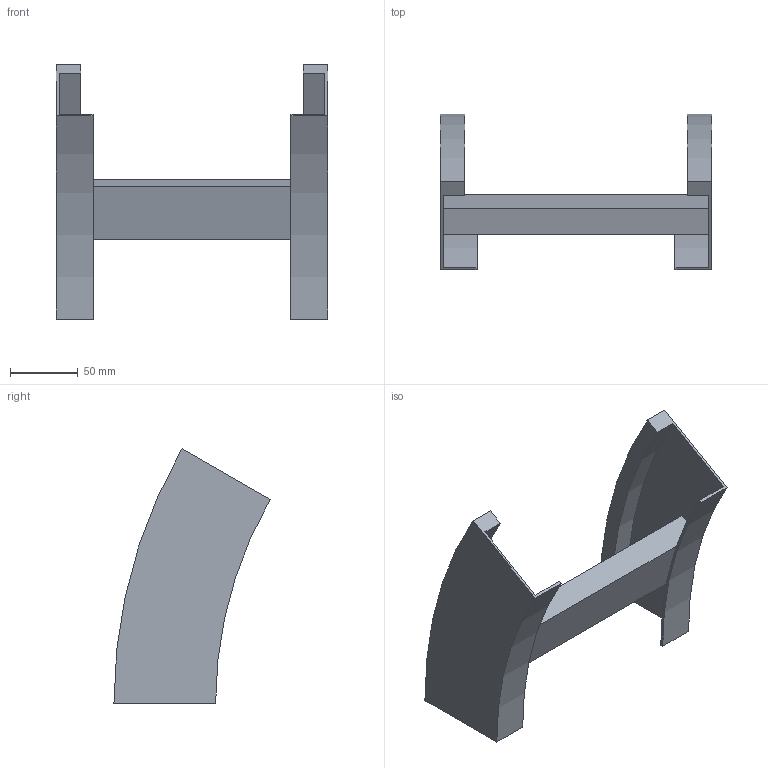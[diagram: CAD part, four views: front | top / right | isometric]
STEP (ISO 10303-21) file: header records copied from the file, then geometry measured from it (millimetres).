
FILE_DESCRIPTION (( 'STEP AP214' ), '1' );
FILE_NAME ('B2_35B3C200.step', '2025-02-21T14:50:20', ( '' ), ( '' ), 'SwSTEP 2.0', 'SolidWorks 2023', '' );
FILE_SCHEMA (( 'AUTOMOTIVE_DESIGN' ));
Length unit declared in the file: millimetre
Products named in the file (3): B2_LONGH.DISCESA_30°_H75_R300; B2_35B3C200; TRAVERSINO_200
Assembly tree (3 placements, depth 2):
  B2_35B3C200
    B2_LONGH.DISCESA_30°_H75_R300  x2
    TRAVERSINO_200
Bounding box: 200 x 115.19 x 187.5 mm (x, y, z)
Volume: 301726.6 mm3; surface area: 109457.7 mm2
Topology: 3 solids, 3 shells, 26 faces, 60 edges, 40 vertices
Faces by surface type: plane 18, cylinder 8
Entity records: 544 total; most frequent: DIRECTION 88, CARTESIAN_POINT 82, ORIENTED_EDGE 72, EDGE_CURVE 36, AXIS2_PLACEMENT_3D 30, LINE 28, VECTOR 28, VERTEX_POINT 24
